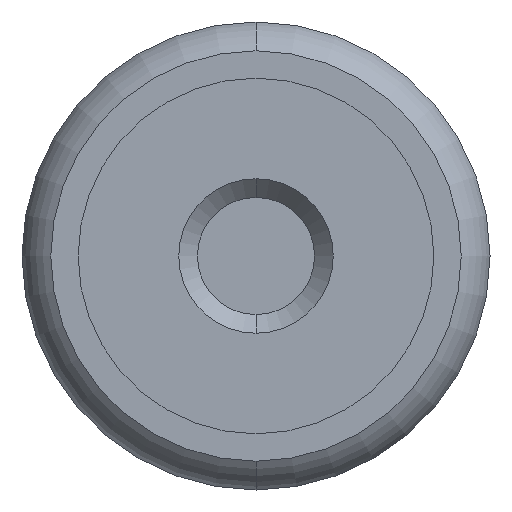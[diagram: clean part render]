
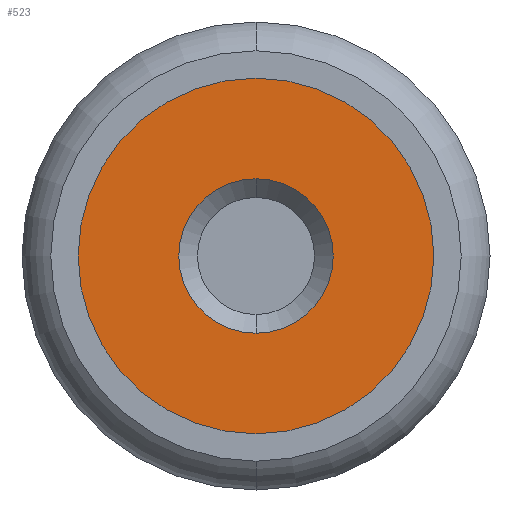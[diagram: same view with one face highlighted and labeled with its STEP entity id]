
A CAD part, front view. The second image highlights one B-rep face of the part: STEP entity #523.
In plain terms, the highlighted planar face has unit normal (0, -1, 0) as drawn and (0, 1, 0) by its records, which use the part's own axes.
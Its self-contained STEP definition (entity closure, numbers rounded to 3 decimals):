
#134 = CIRCLE ( 'NONE', #2413, 1.9 ) ;
#252 = CIRCLE ( 'NONE', #1797, 1.9 ) ;
#323 = ORIENTED_EDGE ( 'NONE', *, *, #3286, .F. ) ;
#523 = ADVANCED_FACE ( 'NONE', ( #2597, #4558 ), #3445, .F. ) ;
#529 = DIRECTION ( 'NONE',  ( 0., -1., 0. ) ) ;
#572 = CARTESIAN_POINT ( 'NONE',  ( 0., 2.45, 1.9 ) ) ;
#611 = CIRCLE ( 'NONE', #3790, 0.825 ) ;
#730 = VERTEX_POINT ( 'NONE', #4629 ) ;
#737 = DIRECTION ( 'NONE',  ( 0., 0., -1. ) ) ;
#772 = CARTESIAN_POINT ( 'NONE',  ( 0., 2.45, 0. ) ) ;
#834 = DIRECTION ( 'NONE',  ( 0., 0., -1. ) ) ;
#875 = CARTESIAN_POINT ( 'NONE',  ( -2.192, 2.45, 10. ) ) ;
#1123 = AXIS2_PLACEMENT_3D ( 'NONE', #2604, #529, #737 ) ;
#1235 = CARTESIAN_POINT ( 'NONE',  ( 0., 2.45, 0. ) ) ;
#1369 = DIRECTION ( 'NONE',  ( 0., 0., -1. ) ) ;
#1481 = CARTESIAN_POINT ( 'NONE',  ( 0., 2.45, -1.9 ) ) ;
#1543 = VERTEX_POINT ( 'NONE', #4454 ) ;
#1633 = VERTEX_POINT ( 'NONE', #1481 ) ;
#1714 = CARTESIAN_POINT ( 'NONE',  ( 0., 2.45, 0. ) ) ;
#1797 = AXIS2_PLACEMENT_3D ( 'NONE', #1714, #2864, #1369 ) ;
#1901 = ORIENTED_EDGE ( 'NONE', *, *, #2464, .F. ) ;
#1906 = DIRECTION ( 'NONE',  ( 0., -1., 0. ) ) ;
#2012 = CIRCLE ( 'NONE', #1123, 0.825 ) ;
#2413 = AXIS2_PLACEMENT_3D ( 'NONE', #1235, #4213, #834 ) ;
#2418 = EDGE_LOOP ( 'NONE', ( #323, #1901 ) ) ;
#2464 = EDGE_CURVE ( 'NONE', #1633, #4497, #134, .T. ) ;
#2507 = EDGE_LOOP ( 'NONE', ( #4256, #3311 ) ) ;
#2551 = AXIS2_PLACEMENT_3D ( 'NONE', #875, #1906, #3463 ) ;
#2597 = FACE_BOUND ( 'NONE', #2507, .T. ) ;
#2604 = CARTESIAN_POINT ( 'NONE',  ( 0., 2.45, 0. ) ) ;
#2864 = DIRECTION ( 'NONE',  ( 0., -1., 0. ) ) ;
#3286 = EDGE_CURVE ( 'NONE', #4497, #1633, #252, .T. ) ;
#3310 = EDGE_CURVE ( 'NONE', #1543, #730, #611, .T. ) ;
#3311 = ORIENTED_EDGE ( 'NONE', *, *, #3310, .T. ) ;
#3445 = PLANE ( 'NONE',  #2551 ) ;
#3463 = DIRECTION ( 'NONE',  ( 0., 0., -1. ) ) ;
#3500 = EDGE_CURVE ( 'NONE', #730, #1543, #2012, .T. ) ;
#3690 = DIRECTION ( 'NONE',  ( 0., -1., 0. ) ) ;
#3706 = DIRECTION ( 'NONE',  ( 0., 0., -1. ) ) ;
#3790 = AXIS2_PLACEMENT_3D ( 'NONE', #772, #3690, #3706 ) ;
#4213 = DIRECTION ( 'NONE',  ( 0., -1., 0. ) ) ;
#4256 = ORIENTED_EDGE ( 'NONE', *, *, #3500, .T. ) ;
#4454 = CARTESIAN_POINT ( 'NONE',  ( 0., 2.45, -0.825 ) ) ;
#4497 = VERTEX_POINT ( 'NONE', #572 ) ;
#4558 = FACE_OUTER_BOUND ( 'NONE', #2418, .T. ) ;
#4629 = CARTESIAN_POINT ( 'NONE',  ( 0., 2.45, 0.825 ) ) ;
